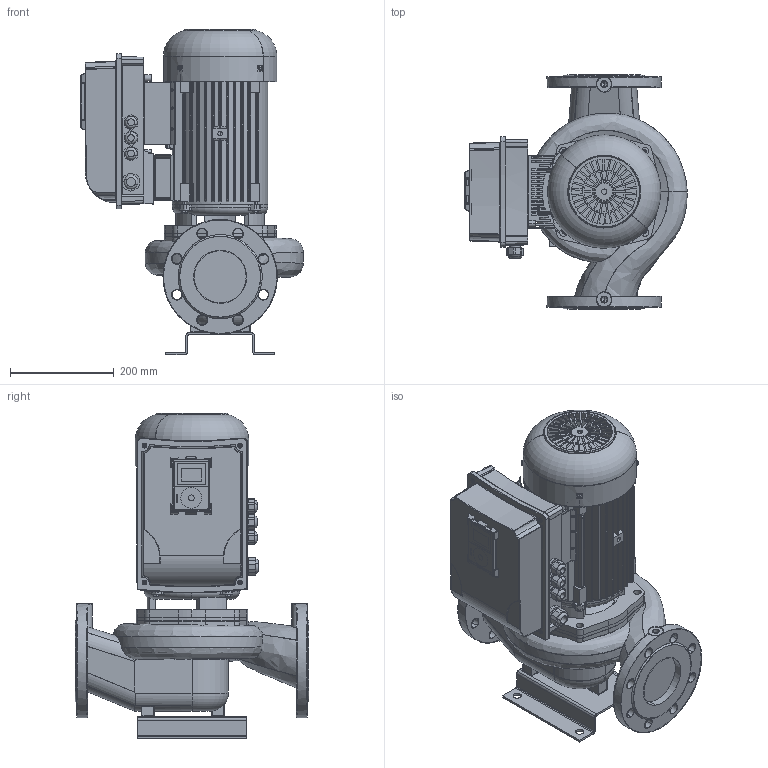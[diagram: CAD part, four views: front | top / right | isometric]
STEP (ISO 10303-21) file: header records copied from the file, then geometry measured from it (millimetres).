
FILE_DESCRIPTION(('STEP AP214'),'1');
FILE_NAME('export.stp','2018-06-01T12:31:14',(' '),(' '),'Spatial InterOp 3D',' ',' ');
FILE_SCHEMA(('AUTOMOTIVE_DESIGN { 1 0 10303 214 1 1 1 1 }'));
Length unit declared in the file: millimetre
Products named in the file (26): W_AL11022400_KPVS; V_TLL65AB80A1102; V_PPAL1102; V_JALKA35973; 440017; 440016; V_MKP112-1-F19_VS; 440015___; 440018; 440021; DIN_EN_24017_-_M6_30_DIN_EN_2401; DIN_EN_ISO_7045-M5X6_DIN_EN_ISO_; Vacon_MS2; G43699; Vacon20CP_MS2; MS2_bottom_final; P101407; MS2_cover_final; Vacon_Display; CAD-3D-VACON-M100-Display.sldasm; Vacon_display_pla; Vacon_display_scr; DIN_966-M5x10; M20_tiivisteholkk; M25_tiivisteholkk; SOVITUSPALA
Assembly tree (40 placements, depth 6):
  W_AL11022400_KPVS
    V_TLL65AB80A1102
    V_PPAL1102
    V_JALKA35973
    V_MKP112-1-F19_VS
      440017
        440016
      440015___
      440018
      440021
      DIN_EN_24017_-_M6_30_DIN_EN_2401  x8
      DIN_EN_ISO_7045-M5X6_DIN_EN_ISO_  x4
      Vacon_MS2
        G43699
        Vacon20CP_MS2
          MS2_bottom_final
          P101407
          MS2_cover_final
          Vacon_Display
            CAD-3D-VACON-M100-Display.sldasm
            Vacon_display_pla
            Vacon_display_scr
          DIN_966-M5x10  x4
          M20_tiivisteholkk  x3
          M25_tiivisteholkk
      SOVITUSPALA
Bounding box: 428.31 x 450 x 626.2 mm (x, y, z)
Volume: 4731003.4 mm3; surface area: 2980557.1 mm2
Topology: 34 solids, 1507 shells, 4935 faces, 17038 edges, 13641 vertices
Faces by surface type: bspline 1591, cylinder 1407, plane 1249, cone 339, torus 298, sphere 43, offset 8
Entity records: 223944 total; most frequent: CARTESIAN_POINT 90081, ORIENTED_EDGE 23898, DIRECTION 16091, EDGE_CURVE 15771, VERTEX_POINT 12941, B_SPLINE_CURVE_WITH_KNOTS 7542, AXIS2_PLACEMENT_3D 6263, EDGE_LOOP 4952
